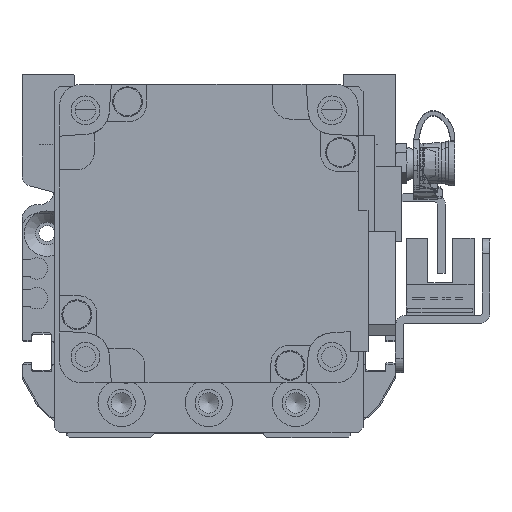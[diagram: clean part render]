
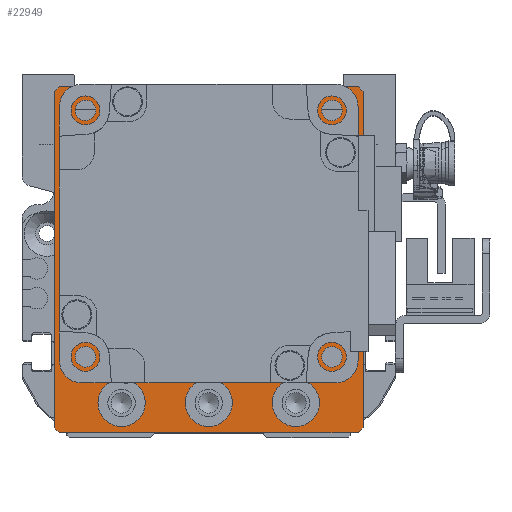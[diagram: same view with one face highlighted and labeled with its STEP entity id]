
A CAD part, left-side view. The second image highlights one B-rep face of the part: STEP entity #22949.
In plain terms, the highlighted planar face has unit normal (-1, 0, 0) as drawn and (0, 0, 1) by its records, which use the part's own axes.
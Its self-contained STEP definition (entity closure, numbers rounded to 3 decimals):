
#873=FACE_BOUND('',#4493,.T.);
#874=FACE_BOUND('',#4494,.T.);
#875=FACE_BOUND('',#4495,.T.);
#876=FACE_BOUND('',#4496,.T.);
#877=FACE_BOUND('',#4497,.T.);
#878=FACE_BOUND('',#4498,.T.);
#879=FACE_BOUND('',#4499,.T.);
#880=FACE_BOUND('',#4500,.T.);
#1412=PLANE('',#25541);
#2981=FACE_OUTER_BOUND('',#4492,.T.);
#4492=EDGE_LOOP('',(#20125,#20126,#20127,#20128,#20129,#20130,#20131,#20132));
#4493=EDGE_LOOP('',(#20133));
#4494=EDGE_LOOP('',(#20134));
#4495=EDGE_LOOP('',(#20135));
#4496=EDGE_LOOP('',(#20136));
#4497=EDGE_LOOP('',(#20137));
#4498=EDGE_LOOP('',(#20138));
#4499=EDGE_LOOP('',(#20139));
#4500=EDGE_LOOP('',(#20140));
#6390=LINE('',#38495,#8326);
#6393=LINE('',#38500,#8329);
#6395=LINE('',#38504,#8331);
#6397=LINE('',#38508,#8333);
#6399=LINE('',#38513,#8335);
#6401=LINE('',#38516,#8337);
#6402=LINE('',#38518,#8338);
#6403=LINE('',#38519,#8339);
#8326=VECTOR('',#31213,10.);
#8329=VECTOR('',#31218,10.);
#8331=VECTOR('',#31222,10.);
#8333=VECTOR('',#31226,10.);
#8335=VECTOR('',#31230,10.);
#8337=VECTOR('',#31234,10.);
#8338=VECTOR('',#31235,10.);
#8339=VECTOR('',#31236,10.);
#9690=CIRCLE('',#25542,25.);
#9691=CIRCLE('',#25543,2.067);
#9692=CIRCLE('',#25544,2.067);
#9693=CIRCLE('',#25545,2.067);
#9694=CIRCLE('',#25546,2.067);
#9695=CIRCLE('',#25547,4.75);
#9696=CIRCLE('',#25548,4.75);
#9697=CIRCLE('',#25549,4.75);
#11574=VERTEX_POINT('',#38492);
#11575=VERTEX_POINT('',#38494);
#11576=VERTEX_POINT('',#38498);
#11577=VERTEX_POINT('',#38502);
#11578=VERTEX_POINT('',#38506);
#11579=VERTEX_POINT('',#38510);
#11580=VERTEX_POINT('',#38512);
#11581=VERTEX_POINT('',#38517);
#11582=VERTEX_POINT('',#38520);
#11583=VERTEX_POINT('',#38522);
#11584=VERTEX_POINT('',#38524);
#11585=VERTEX_POINT('',#38526);
#11586=VERTEX_POINT('',#38528);
#11587=VERTEX_POINT('',#38530);
#11588=VERTEX_POINT('',#38532);
#11589=VERTEX_POINT('',#38534);
#14520=EDGE_CURVE('',#11574,#11575,#6390,.T.);
#14523=EDGE_CURVE('',#11574,#11576,#6393,.T.);
#14525=EDGE_CURVE('',#11577,#11576,#6395,.T.);
#14527=EDGE_CURVE('',#11577,#11578,#6397,.T.);
#14529=EDGE_CURVE('',#11579,#11580,#6399,.T.);
#14531=EDGE_CURVE('',#11579,#11575,#6401,.T.);
#14532=EDGE_CURVE('',#11581,#11578,#6402,.T.);
#14533=EDGE_CURVE('',#11581,#11580,#6403,.T.);
#14534=EDGE_CURVE('',#11582,#11582,#9690,.T.);
#14535=EDGE_CURVE('',#11583,#11583,#9691,.T.);
#14536=EDGE_CURVE('',#11584,#11584,#9692,.T.);
#14537=EDGE_CURVE('',#11585,#11585,#9693,.T.);
#14538=EDGE_CURVE('',#11586,#11586,#9694,.T.);
#14539=EDGE_CURVE('',#11587,#11587,#9695,.T.);
#14540=EDGE_CURVE('',#11588,#11588,#9696,.T.);
#14541=EDGE_CURVE('',#11589,#11589,#9697,.T.);
#20125=ORIENTED_EDGE('',*,*,#14529,.F.);
#20126=ORIENTED_EDGE('',*,*,#14531,.T.);
#20127=ORIENTED_EDGE('',*,*,#14520,.F.);
#20128=ORIENTED_EDGE('',*,*,#14523,.T.);
#20129=ORIENTED_EDGE('',*,*,#14525,.F.);
#20130=ORIENTED_EDGE('',*,*,#14527,.T.);
#20131=ORIENTED_EDGE('',*,*,#14532,.F.);
#20132=ORIENTED_EDGE('',*,*,#14533,.T.);
#20133=ORIENTED_EDGE('',*,*,#14534,.T.);
#20134=ORIENTED_EDGE('',*,*,#14535,.T.);
#20135=ORIENTED_EDGE('',*,*,#14536,.T.);
#20136=ORIENTED_EDGE('',*,*,#14537,.T.);
#20137=ORIENTED_EDGE('',*,*,#14538,.T.);
#20138=ORIENTED_EDGE('',*,*,#14539,.T.);
#20139=ORIENTED_EDGE('',*,*,#14540,.T.);
#20140=ORIENTED_EDGE('',*,*,#14541,.T.);
#22949=ADVANCED_FACE('',(#2981,#873,#874,#875,#876,#877,#878,#879,#880),
#1412,.T.);
#25541=AXIS2_PLACEMENT_3D('',#38515,#31232,#31233);
#25542=AXIS2_PLACEMENT_3D('',#38521,#31237,#31238);
#25543=AXIS2_PLACEMENT_3D('',#38523,#31239,#31240);
#25544=AXIS2_PLACEMENT_3D('',#38525,#31241,#31242);
#25545=AXIS2_PLACEMENT_3D('',#38527,#31243,#31244);
#25546=AXIS2_PLACEMENT_3D('',#38529,#31245,#31246);
#25547=AXIS2_PLACEMENT_3D('',#38531,#31247,#31248);
#25548=AXIS2_PLACEMENT_3D('',#38533,#31249,#31250);
#25549=AXIS2_PLACEMENT_3D('',#38535,#31251,#31252);
#31213=DIRECTION('',(-0.707,-0.707,0.));
#31218=DIRECTION('',(0.,1.,0.));
#31222=DIRECTION('',(0.707,-0.707,0.));
#31226=DIRECTION('',(-1.,0.,0.));
#31230=DIRECTION('',(-0.707,0.707,0.));
#31232=DIRECTION('center_axis',(0.,0.,1.));
#31233=DIRECTION('ref_axis',(1.,0.,0.));
#31234=DIRECTION('',(1.,0.,0.));
#31235=DIRECTION('',(0.707,0.707,0.));
#31236=DIRECTION('',(0.,-1.,0.));
#31237=DIRECTION('center_axis',(0.,0.,-1.));
#31238=DIRECTION('ref_axis',(1.,0.,0.));
#31239=DIRECTION('center_axis',(0.,0.,-1.));
#31240=DIRECTION('ref_axis',(1.,0.,0.));
#31241=DIRECTION('center_axis',(0.,0.,-1.));
#31242=DIRECTION('ref_axis',(1.,0.,0.));
#31243=DIRECTION('center_axis',(0.,0.,-1.));
#31244=DIRECTION('ref_axis',(1.,0.,0.));
#31245=DIRECTION('center_axis',(0.,0.,-1.));
#31246=DIRECTION('ref_axis',(1.,0.,0.));
#31247=DIRECTION('center_axis',(0.,0.,-1.));
#31248=DIRECTION('ref_axis',(1.,0.,0.));
#31249=DIRECTION('center_axis',(0.,0.,-1.));
#31250=DIRECTION('ref_axis',(1.,0.,0.));
#31251=DIRECTION('center_axis',(0.,0.,-1.));
#31252=DIRECTION('ref_axis',(1.,0.,0.));
#38492=CARTESIAN_POINT('',(31.,-33.75,59.));
#38494=CARTESIAN_POINT('',(30.,-34.75,59.));
#38495=CARTESIAN_POINT('',(31.438,-33.313,59.));
#38498=CARTESIAN_POINT('',(31.,33.75,59.));
#38500=CARTESIAN_POINT('',(31.,-34.75,59.));
#38502=CARTESIAN_POINT('',(30.,34.75,59.));
#38504=CARTESIAN_POINT('',(31.438,33.313,59.));
#38506=CARTESIAN_POINT('',(-30.,34.75,59.));
#38508=CARTESIAN_POINT('',(31.,34.75,59.));
#38510=CARTESIAN_POINT('',(-30.,-34.75,59.));
#38512=CARTESIAN_POINT('',(-31.,-33.75,59.));
#38513=CARTESIAN_POINT('',(-31.438,-33.313,59.));
#38515=CARTESIAN_POINT('Origin',(0.,0.,
59.));
#38516=CARTESIAN_POINT('',(-31.,-34.75,59.));
#38517=CARTESIAN_POINT('',(-31.,33.75,59.));
#38518=CARTESIAN_POINT('',(-31.438,33.313,59.));
#38519=CARTESIAN_POINT('',(-31.,34.75,59.));
#38520=CARTESIAN_POINT('',(-25.,5.25,59.));
#38521=CARTESIAN_POINT('Origin',(0.,5.25,59.));
#38522=CARTESIAN_POINT('',(22.682,-19.499,59.));
#38523=CARTESIAN_POINT('Origin',(24.749,-19.499,59.));
#38524=CARTESIAN_POINT('',(22.682,29.999,59.));
#38525=CARTESIAN_POINT('Origin',(24.749,29.999,59.));
#38526=CARTESIAN_POINT('',(-26.816,29.999,59.));
#38527=CARTESIAN_POINT('Origin',(-24.749,29.999,59.));
#38528=CARTESIAN_POINT('',(-26.816,-19.499,59.));
#38529=CARTESIAN_POINT('Origin',(-24.749,-19.499,59.));
#38530=CARTESIAN_POINT('',(12.75,-28.75,59.));
#38531=CARTESIAN_POINT('Origin',(17.5,-28.75,59.));
#38532=CARTESIAN_POINT('',(-4.75,-28.75,59.));
#38533=CARTESIAN_POINT('Origin',(0.,-28.75,59.));
#38534=CARTESIAN_POINT('',(-22.25,-28.75,59.));
#38535=CARTESIAN_POINT('Origin',(-17.5,-28.75,59.));
